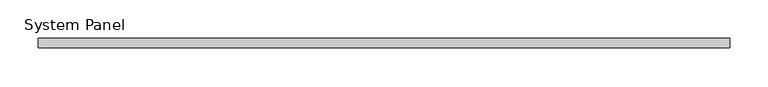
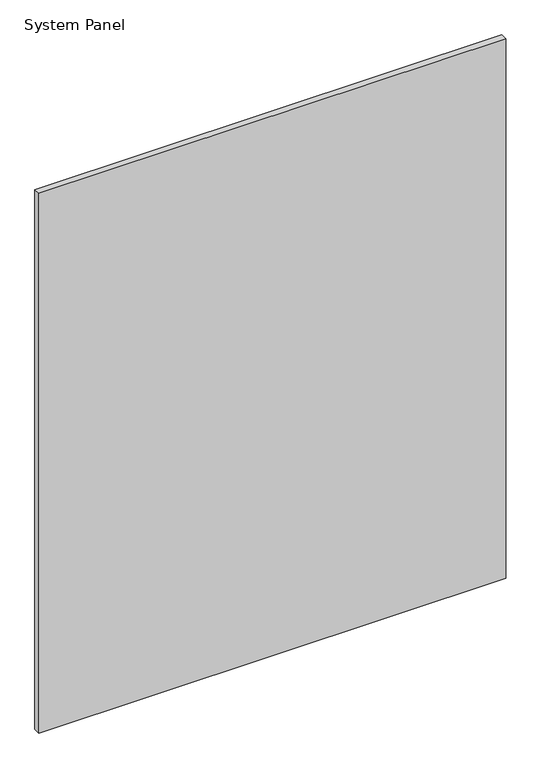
"""IFC4 building model written with IfcOpenShell, lengths in millimetres: plate geometry, System Panel : CR-BARANDA."""

from ifc_helpers import new_model, si_unit, origin, origin_with_axes, place, context, project, spatial, polyline, outline, extrude, source, transform, mapped, element, save


def system_panel_5ccbd7a3(model_context):
    return source(origin(), model_context, "Body", "SweptSolid", [
        extrude(outline(polyline([(450.0000002, -6.25), (-450.0000002, -6.25), (-450.0000002, 6.25), (450.0000002, 6.25), (450.0000002, -6.25)])), origin_with_axes(), (0.0, 0.0, 1.0), 1100.0),
    ])


if __name__ == "__main__":
    model = new_model("IFC4")
    model_context = context("Model", 3, world=origin())
    ifc_project = project(units=[si_unit("LENGTHUNIT", "METRE", prefix="MILLI")], contexts=[model_context])
    site = spatial("IfcSite", under=ifc_project)
    building = spatial("IfcBuilding", under=site)
    placement = place(None, origin())
    system_panel_shape = system_panel_5ccbd7a3(model_context)
    element("IfcPlate", 1, ObjectType="System Panel : CR-BARANDA", at=placement, inside=building, context=model_context, shape_type="MappedRepresentation", body=[
        mapped(system_panel_shape, transform((0.0, 0.0, 0.0), x_axis=(1.0, 0.0, 0.0), y_axis=(0.0, 1.0, 0.0), z_axis=(0.0, 0.0, 1.0))),
    ])
    save(model, "model.ifc")
